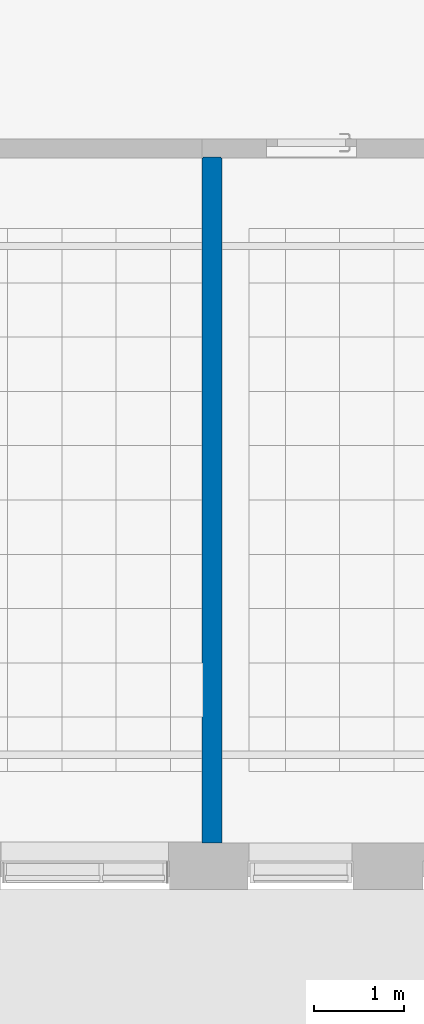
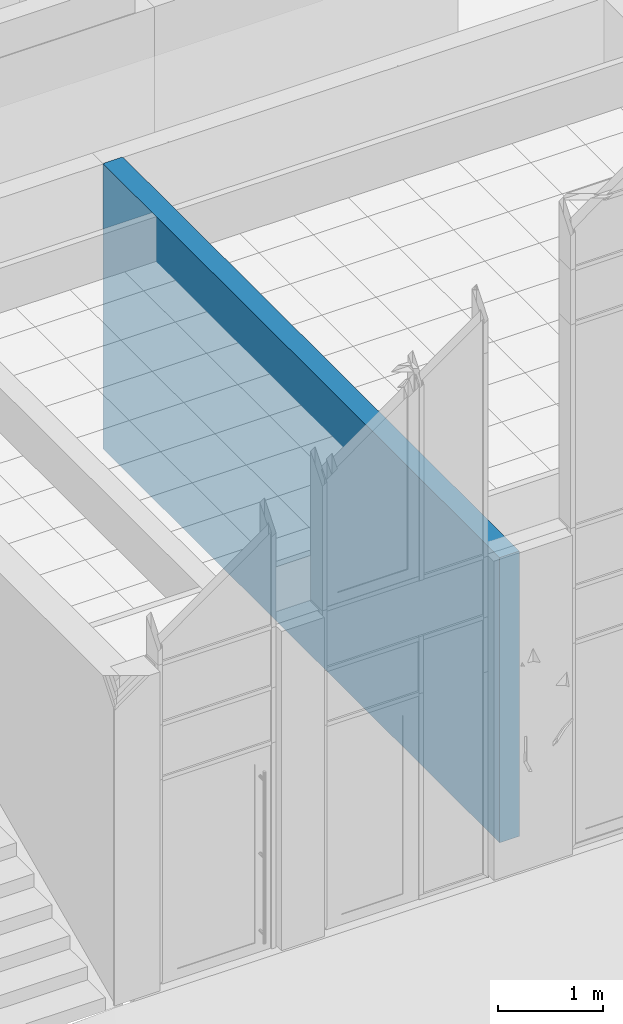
# One storey, part 114 of 246: 1 wall.
"""IFC2X3 building model written with IfcOpenShell, lengths in millimetres."""

from ifc_helpers import new_model, entity, si_unit, converted_unit, derived_unit, money_unit, direction, frame, origin_with_axes, place, context, subcontext, project, spatial, faceted_brep, material, material_list, type_object, element, save


model = new_model("IFC2X3")

# Units and contexts
model_context = context("Model", 3, precision=0.01, world=origin_with_axes(), true_north=direction((0.0, 1.0)))
body_context = subcontext(model_context, "Body", "Model", "MODEL_VIEW")
ifc_project = project(units=[si_unit("LENGTHUNIT", "METRE", prefix="MILLI"), si_unit("AREAUNIT", "SQUARE_METRE"), si_unit("VOLUMEUNIT", "CUBIC_METRE"), converted_unit("PLANEANGLEUNIT", "DEGREE", entity("IfcPlaneAngleMeasure", 0.0174532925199), si_unit("PLANEANGLEUNIT", "RADIAN"), dimensions=[0, 0, 0, 0, 0, 0, 0]), si_unit("SOLIDANGLEUNIT", "STERADIAN"), money_unit("EUR"), converted_unit("TIMEUNIT", "Year", entity("IfcTimeMeasure", 31556926.0), si_unit("TIMEUNIT", "SECOND"), dimensions=[0, 0, 1, 0, 0, 0, 0]), si_unit("MASSUNIT", "GRAM", prefix="KILO"), si_unit("THERMODYNAMICTEMPERATUREUNIT", "DEGREE_CELSIUS"), si_unit("LUMINOUSINTENSITYUNIT", "LUMEN"), si_unit("ENERGYUNIT", "JOULE", prefix="MEGA"), derived_unit("THERMALCONDUCTANCEUNIT", [(si_unit("POWERUNIT", "WATT"), 1), (si_unit("LENGTHUNIT", "METRE"), -1), (si_unit("THERMODYNAMICTEMPERATUREUNIT", "KELVIN"), -1)]), derived_unit("SPECIFICHEATCAPACITYUNIT", [(si_unit("ENERGYUNIT", "JOULE"), 1), (si_unit("MASSUNIT", "GRAM", prefix="KILO"), -1), (si_unit("THERMODYNAMICTEMPERATUREUNIT", "KELVIN"), -1)]), derived_unit("MASSDENSITYUNIT", [(si_unit("MASSUNIT", "GRAM", prefix="KILO"), 1), (si_unit("VOLUMEUNIT", "CUBIC_METRE"), -1)])], contexts=[model_context])

# Site, building, storey
site_placement = place(None, origin_with_axes())
site = spatial("IfcSite", under=ifc_project, at=site_placement, Name="L.Koidula tn 11b", CompositionType="ELEMENT")
building_placement = place(site_placement, origin_with_axes())
building = spatial("IfcBuilding", under=site, at=building_placement, Name="Rakvere Riigigümnaasium", CompositionType="ELEMENT")
storey_placement = place(building_placement, origin_with_axes())
storey = spatial("IfcBuildingStorey", under=building, at=storey_placement, Name="1.korrus 0,00", CompositionType="ELEMENT", Elevation=0.0)

# Wall
ifc_material_1 = material(Name="siseviimistlus-seinad")
ifc_material_2 = material(Name="Betoon element / plaat")
ifc_material_list = material_list([ifc_material_1, ifc_material_2, ifc_material_1])
wall_type = type_object("IfcWallType", Name="SS-01-2 220", PredefinedType="NOTDEFINED")
wall_placement = place(storey_placement, frame((39539.9999985, 13280.4405239, 0.0), z_axis=(0.0, 0.0, 1.0), x_axis=(0.0, -1.0, 0.0)))
element("IfcWall", 1, at=wall_placement, inside=storey, type_object=wall_type, material=ifc_material_list, Name="Sisesein", context=body_context, shape_type="Brep", body=[
    faceted_brep([(209.998862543, 200.0, 3325.0), (209.99885986, 210.0, 3325.0), (209.99885986, 210.0, 0.0), (209.998862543, 200.0, 0.0), (7779.98498499, 210.0, 3325.0), (7779.98498499, 200.0, 3325.0), (7779.98498508, 210.0, -1.14337717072e-06), (7779.98498508, 200.0, -1.14102638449e-06)], [[[0, 1, 2, 3]], [[4, 1, 0, 5]], [[1, 4, 6, 2]], [[2, 6, 7, 3]], [[5, 0, 3, 7]], [[4, 5, 7, 6]]]),
    faceted_brep([(199.998916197, 0.0, 3325.0), (199.998862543, 200.0, 3325.0), (199.998862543, 200.0, 0.0), (199.998916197, 0.0, 0.0), (7779.98498499, 200.0, 3325.0), (7779.984985, 0.0, 3325.0), (7779.98498508, 200.0, -1.14102638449e-06), (7779.98498508, 0.0, -1.0940124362e-06)], [[[0, 1, 2, 3]], [[4, 1, 0, 5]], [[1, 4, 6, 2]], [[2, 6, 7, 3]], [[5, 0, 3, 7]], [[4, 5, 7, 6]]]),
    faceted_brep([(209.998918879, -10.0, 3325.0), (209.998916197, 0.0, 3325.0), (209.998916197, 0.0, 0.0), (209.998918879, -10.0, 0.0), (7779.984985, 0.0, 3325.0), (7779.984985, -10.0, 3325.0), (7779.98498508, 0.0, -1.09401265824e-06), (7779.98498508, -10.0, -1.09166187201e-06)], [[[0, 1, 2, 3]], [[4, 1, 0, 5]], [[1, 4, 6, 2]], [[2, 6, 7, 3]], [[5, 0, 3, 7]], [[4, 5, 7, 6]]]),
])

save(model, "model.ifc")
